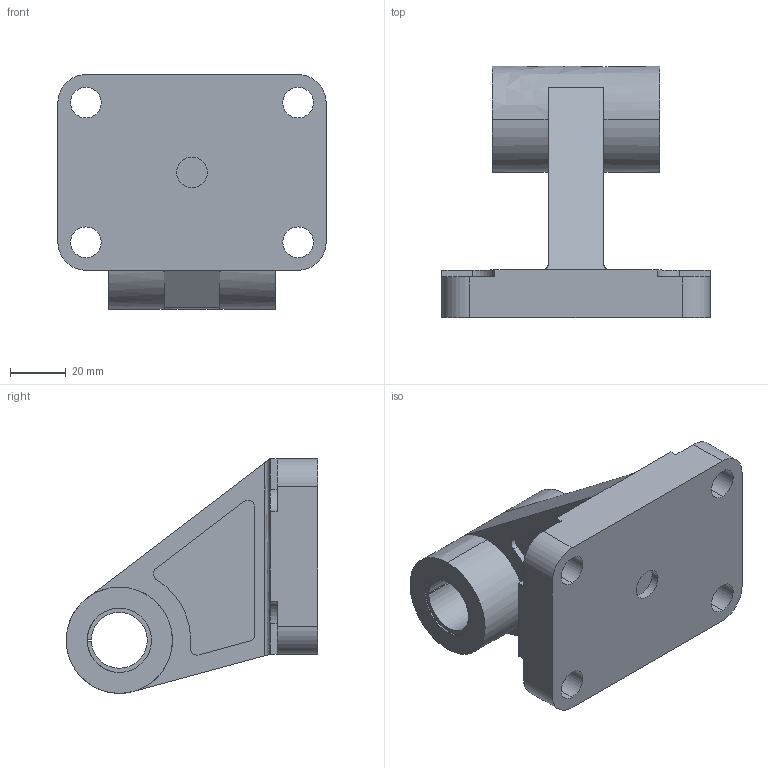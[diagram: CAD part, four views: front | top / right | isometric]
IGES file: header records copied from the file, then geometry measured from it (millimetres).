
Start section:  PTC IGES file: R412027476\r412027476.iges
Global section: file name: R412027476\r412027476.iges; native system: Creo Parametric by PTC Inc.; preprocessor: 2020044; author: THD3HC; organization: Unknown; date: 20231013.141658; units: millimetre
Bounding box: 96 x 90 x 84 mm (x, y, z)
Surface area: 38601.8 mm2 (no closed solid volume)
Topology: 0 solids, 0 shells, 360 faces, 2020 edges, 2020 vertices
Faces by surface type: bspline 321, revolution 39
